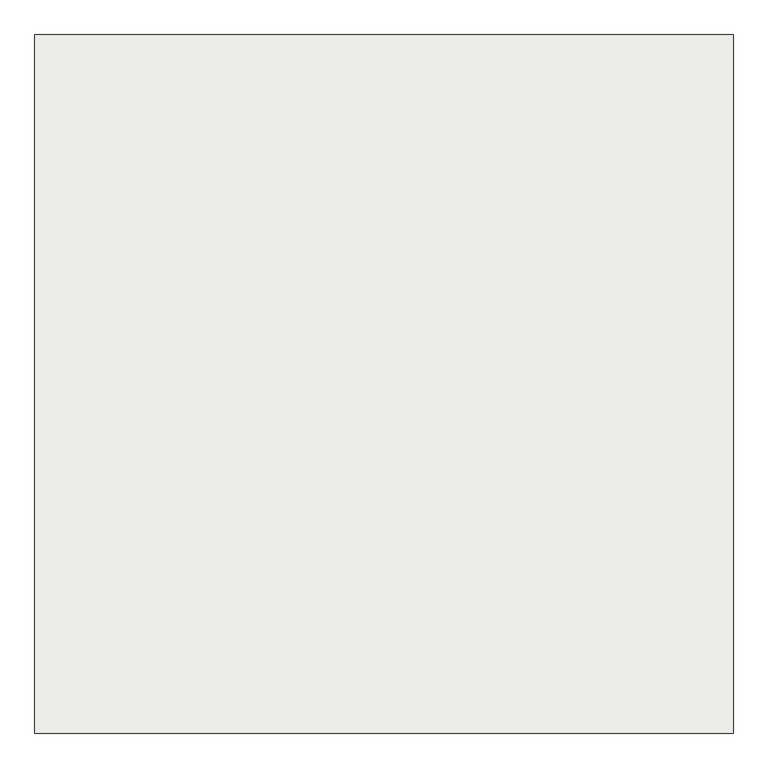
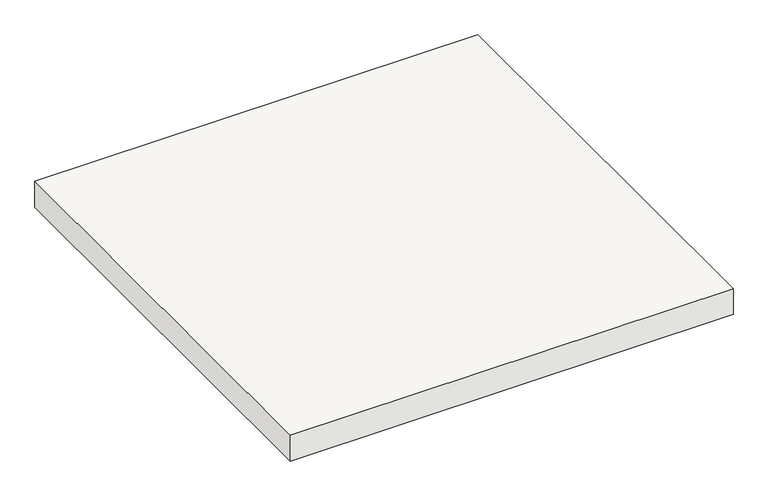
"""IFC4 building model written with IfcOpenShell, lengths in millimetres: roof geometry, Basic Roof:47_RO_dakpan_grijs_300x300:69939 : Basic Roof:47_RO_dakpan_grijs_300x300:69939."""

from ifc_helpers import new_model, si_unit, origin, origin_with_axes, place, context, project, spatial, polyline, outline, extrude, source, transform, mapped, element, save


def roof_24a27b46(model_context):
    return source(origin(), model_context, "Body", "SweptSolid", [
        extrude(outline(polyline([(38693.347385, -7415.0), (37193.347385, -7415.0), (37193.347385, -5915.0), (38693.347385, -5915.0), (38693.347385, -7415.0)])), origin_with_axes(), (0.0, 0.0, 1.0), 92.0),
    ])


if __name__ == "__main__":
    model = new_model("IFC4")
    model_context = context("Model", 3, world=origin())
    ifc_project = project(units=[si_unit("LENGTHUNIT", "METRE", prefix="MILLI")], contexts=[model_context])
    site = spatial("IfcSite", under=ifc_project)
    building = spatial("IfcBuilding", under=site)
    placement = place(None, origin())
    roof_shape = roof_24a27b46(model_context)
    element("IfcRoof", 1, ObjectType="Basic Roof:47_RO_dakpan_grijs_300x300:69939 : Basic Roof:47_RO_dakpan_grijs_300x300:69939", at=placement, inside=building, context=model_context, shape_type="MappedRepresentation", body=[
        mapped(roof_shape, transform((0.0, 0.0, 0.0), x_axis=(1.0, 0.0, 0.0), y_axis=(0.0, 1.0, 0.0), z_axis=(0.0, 0.0, 1.0))),
    ])
    save(model, "model.ifc")
